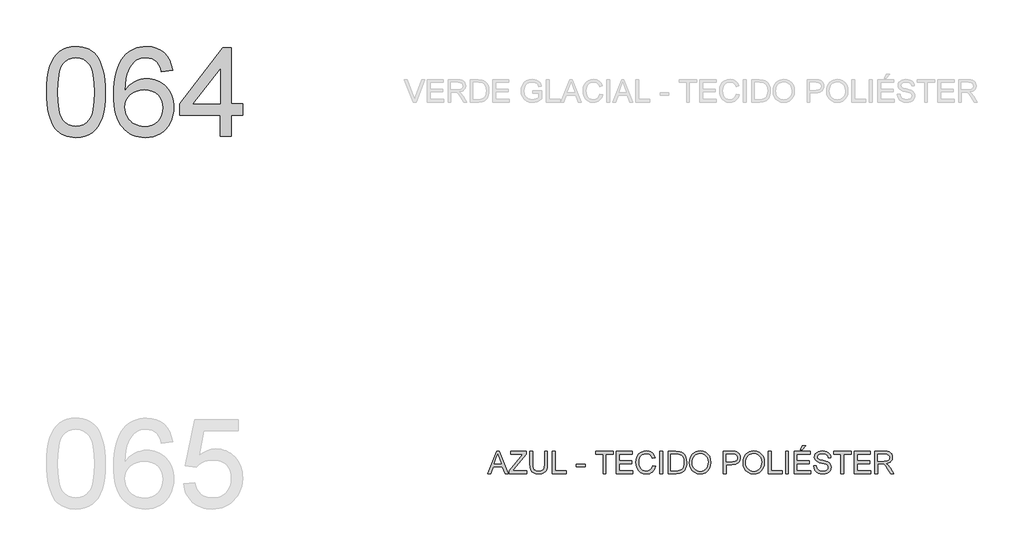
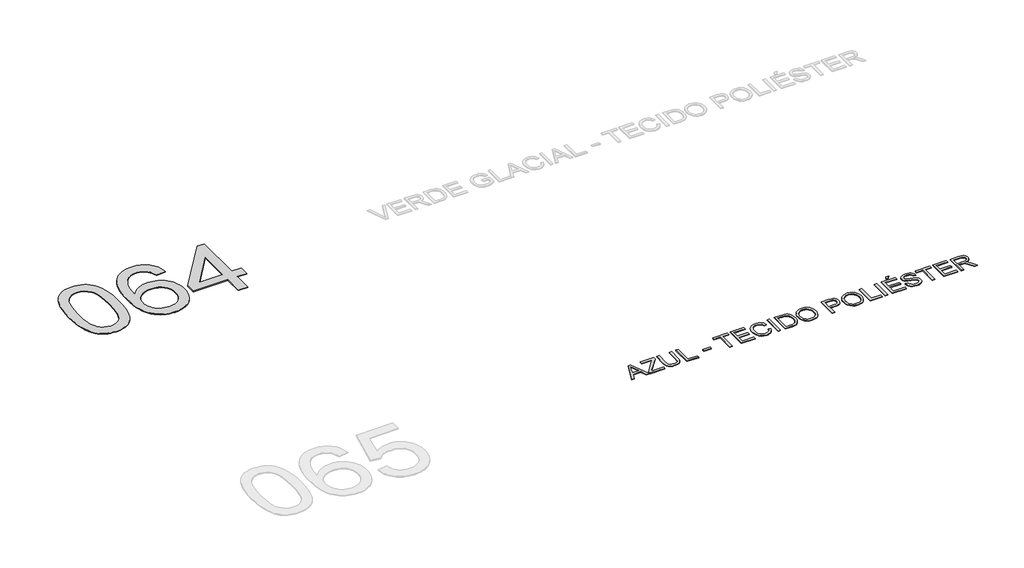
# One storey, part 12 of 39: 2 proxies.
"""IFC4 building model written with IfcOpenShell, lengths in millimetres."""

from ifc_helpers import new_model, si_unit, origin, origin_with_axes, place, context, project, spatial, polyline, outline, extrude, element, save

model = new_model("IFC4")

# Units and contexts
model_context = context("Model", 3, world=origin())
ifc_project = project(units=[si_unit("LENGTHUNIT", "METRE", prefix="MILLI")], contexts=[model_context])

# Site, building, storey
site = spatial("IfcSite", under=ifc_project)
building = spatial("IfcBuilding", under=site)
storey = spatial("IfcBuildingStorey", under=building, Name="Marelli - Linha PROFIT - Planta Baixa", Elevation=0.0)

# Proxies
placement = place(None, origin())
element("IfcBuildingElementProxy", 1, Name="1200mm Arial", ObjectType="1200mm Arial", at=placement, inside=storey, context=model_context, shape_type="SweptSolid", body=[
    extrude(outline(polyline([(-25275.30917, -94395.792664), (-25272.540858, -94294.4319773), (-25264.2359219, -94202.8385576), (-25250.3943618, -94121.0124048), (-25231.0161777, -94048.953519), (-25206.1841431, -93986.073289), (-25175.9810313, -93931.7831035), (-25140.4068423, -93886.0829627), (-25099.4615763, -93848.9728664), (-25053.0072773, -93820.2596767), (-25000.9059898, -93799.7502555), (-24943.1577136, -93787.4446027), (-24879.7624488, -93783.3427185), (-24832.1217304, -93785.7707396), (-24786.9090332, -93793.0548031), (-24744.1243571, -93805.194909), (-24703.7677023, -93822.1910572), (-24666.8139558, -93843.7581391), (-24634.2380052, -93869.6110463), (-24606.0398502, -93899.7497788), (-24582.2194911, -93934.1743365), (-24561.5813111, -93972.7467637), (-24542.929694, -94015.3291046), (-24511.586148, -94112.5235278), (-24499.611589, -94169.6831928), (-24491.0583327, -94235.9479371), (-24485.9263788, -94311.3177609), (-24484.2157275, -94395.792664), (-24486.9564484, -94496.5095573), (-24495.178611, -94587.6431245), (-24508.8822153, -94669.1933658), (-24528.0672614, -94741.1602811), (-24552.706158, -94804.0681023), (-24582.771314, -94858.4410612), (-24618.2627295, -94904.2791578), (-24659.1804044, -94941.5823921), (-24705.6898857, -94970.4887199), (-24757.9567202, -94991.1360968), (-24815.9809078, -95003.524523), (-24879.7624488, -95007.6539984), (-24922.4367602, -95005.8605737), (-24962.7566269, -95000.4802995), (-25000.7220488, -94991.5131759), (-25036.3330259, -94978.9592028), (-25069.5895583, -94962.8183803), (-25100.4916459, -94943.0907083), (-25129.0392887, -94919.7761868), (-25155.2324867, -94892.8748159), (-25183.3754594, -94850.2786794), (-25207.7660357, -94802.0999336), (-25228.4042156, -94748.3385785), (-25245.2899992, -94688.9946142), (-25258.4233864, -94624.0680406), (-25267.8043773, -94553.5588577), (-25273.4329718, -94477.4670655), (-25275.30917, -94395.792664)]), holes=[polyline([(-25124.6247047, -94395.4983584), (-25120.2101208, -94526.4919399), (-25106.966369, -94632.5247279), (-25097.0335551, -94676.1808245), (-25084.8934493, -94713.5967226), (-25070.5460515, -94744.7724225), (-25053.9913617, -94769.7079239), (-25016.614551, -94807.884878), (-24975.1174619, -94835.1541309), (-24929.5000945, -94851.5156826), (-24879.7624488, -94856.9695332), (-24830.024803, -94851.4972885), (-24784.4074356, -94835.0805545), (-24742.9103465, -94807.7193311), (-24705.5335358, -94769.4136183), (-24688.9788461, -94744.418336), (-24674.6314482, -94713.2104465), (-24662.4913424, -94675.7899498), (-24652.5585285, -94632.1568459), (-24639.3147767, -94526.2528166), (-24634.9001928, -94395.4983584), (-24639.1676239, -94267.9720648), (-24651.9699173, -94163.8062779), (-24661.5716374, -94120.4835744), (-24673.3070731, -94083.0009976), (-24687.1762243, -94051.3585475), (-24703.1790911, -94025.5562241), (-24739.9305024, -93985.5122689), (-24781.905838, -93956.9094438), (-24829.105098, -93939.7477487), (-24881.5282823, -93934.0271837), (-24931.0084107, -93939.067167), (-24975.8532259, -93954.187117), (-25016.062728, -93979.3870337), (-25051.6369169, -94014.666917), (-25068.7434297, -94043.2145599), (-25083.5690741, -94077.2068562), (-25096.1138501, -94116.6438061), (-25106.3777578, -94161.5254095), (-25120.062968, -94267.6225769), (-25124.6247047, -94395.4983584)])]), origin_with_axes(), (0.0, 0.0, 1.0), 10.0),
    extrude(outline(polyline([(-23580.1089362, -94103.5472071), (-23730.7934014, -94122.3827652), (-23741.8666495, -94082.0812927), (-23755.0736131, -94047.7027202), (-23770.4142923, -94019.2470479), (-23787.8886871, -93996.7142757), (-23820.2806967, -93969.2886729), (-23856.2411618, -93949.6989567), (-23895.7700822, -93937.9451269), (-23938.8674579, -93934.0271837), (-23974.4048586, -93936.3080521), (-24008.9121898, -93943.1506572), (-24042.3894513, -93954.554999), (-24074.8366433, -93970.5210776), (-24104.4419469, -93996.6315022), (-24131.4536824, -94028.1681863), (-24155.8718498, -94065.1311297), (-24177.6964492, -94107.5203326), (-24195.7686522, -94158.1316981), (-24208.9296306, -94219.7611293), (-24217.1793843, -94292.4086263), (-24220.5179134, -94376.0741891), (-24191.7955266, -94338.2099347), (-24160.0749016, -94305.5512106), (-24125.3560383, -94278.0980167), (-24087.6389367, -94255.8503531), (-24047.9352724, -94238.6610669), (-24007.2567208, -94226.3830053), (-23965.6032819, -94219.0161683), (-23922.9749557, -94216.560556), (-23886.0763916, -94218.2390176), (-23850.575779, -94223.2744024), (-23816.4731181, -94231.6667104), (-23783.7684087, -94243.4159416), (-23752.4616509, -94258.5220961), (-23722.5528447, -94276.9851737), (-23694.0419901, -94298.8051745), (-23666.9290871, -94323.9820986), (-23642.1660303, -94351.81697), (-23620.7047144, -94381.6108131), (-23602.5451394, -94413.3636278), (-23587.6873053, -94447.0754142), (-23576.1312121, -94482.7461721), (-23567.8768599, -94520.3759017), (-23562.9242485, -94559.9646029), (-23561.273378, -94601.5122757), (-23564.3819809, -94656.4462547), (-23573.7077895, -94709.4120649), (-23589.2508038, -94760.4097065), (-23611.0110238, -94809.4391794), (-23638.2158973, -94854.6702707), (-23670.0928722, -94894.2727675), (-23706.6419484, -94928.2466698), (-23747.863126, -94956.5919775), (-23792.8734881, -94978.9316116), (-23840.790118, -94994.8884932), (-23891.6130156, -95004.4626221), (-23945.342181, -95007.6539984), (-23991.3435252, -95005.5386769), (-24035.1697672, -94999.1927125), (-24076.8209068, -94988.6161052), (-24116.2969442, -94973.8088549), (-24153.5978792, -94954.7709616), (-24188.723712, -94931.5024254), (-24221.6744424, -94904.0032463), (-24252.4500706, -94872.2734242), (-24280.2826428, -94835.6875598), (-24304.4042053, -94793.6202536), (-24324.8147583, -94746.0715057), (-24341.5143016, -94693.0413161), (-24354.5028353, -94634.5296848), (-24363.7803594, -94570.5366117), (-24369.3468738, -94501.062097), (-24371.2023786, -94426.1061404), (-24369.1422394, -94342.1784618), (-24362.9618219, -94264.1828803), (-24352.6611261, -94192.1193959), (-24338.2401519, -94125.9880088), (-24319.6988993, -94065.7887188), (-24297.0373684, -94011.521526), (-24270.2555591, -93963.1864303), (-24239.3534716, -93920.7834319), (-24209.3388993, -93888.5707647), (-24176.8319265, -93860.6531198), (-24141.8325532, -93837.0304971), (-24104.3407793, -93817.7028968), (-24064.356605, -93802.6703188), (-24021.8800301, -93791.9327631), (-23976.9110547, -93785.4902296), (-23929.4496788, -93783.3427185), (-23860.0487404, -93788.6586133), (-23797.2328897, -93804.6062978), (-23741.0021268, -93831.1857719), (-23691.3564515, -93868.3970358), (-23649.6386333, -93914.9892904), (-23617.1914413, -93969.7117372), (-23594.0148756, -94032.5643761), (-23580.1089362, -94103.5472071)]), holes=[polyline([(-24220.5179134, -94599.157831), (-24218.3382126, -94632.9202011), (-24211.7991101, -94665.9284131), (-24200.900606, -94698.182467), (-24185.6427003, -94729.6823629), (-24166.7703539, -94758.9473756), (-24145.028528, -94784.4967801), (-24120.4172225, -94806.3305766), (-24092.9364375, -94824.4487648), (-24062.7609168, -94838.676601), (-24030.0654045, -94848.8393411), (-23994.8499005, -94854.9369852), (-23957.1144049, -94856.9695332), (-23904.7372058, -94852.7572843), (-23857.6759016, -94840.1205378), (-23815.9304922, -94819.0592936), (-23779.5009776, -94789.5735517), (-23749.9508563, -94752.8589286), (-23728.8436268, -94710.1110407), (-23716.1792892, -94661.3298882), (-23711.9578433, -94606.5154709), (-23716.1241069, -94553.8439662), (-23728.6228976, -94507.0769676), (-23749.4542156, -94466.214475), (-23778.6180608, -94431.2564884), (-23815.15794, -94403.2514715), (-23858.1173599, -94383.247888), (-23907.4963208, -94371.2457379), (-23963.2948224, -94367.2450212), (-24014.9730456, -94371.2457379), (-24062.5861729, -94383.247888), (-24106.134204, -94403.2514715), (-24145.6171392, -94431.2564884), (-24178.3862279, -94465.7546225), (-24201.7927198, -94505.2375576), (-24215.836615, -94549.7052938), (-24220.5179134, -94599.157831)])]), origin_with_axes(), (0.0, 0.0, 1.0), 10.0),
    extrude(outline(polyline([(-22939.699959, -94988.8184403), (-22939.699959, -94706.285068), (-23485.9311454, -94706.285068), (-23485.9311454, -94555.6006027), (-22902.0288427, -93802.1782766), (-22789.0154938, -93802.1782766), (-22789.0154938, -94555.6006027), (-22638.3310285, -94555.6006027), (-22638.3310285, -94706.285068), (-22789.0154938, -94706.285068), (-22789.0154938, -94988.8184403), (-22939.699959, -94988.8184403)]), holes=[polyline([(-22939.699959, -94555.6006027), (-22939.699959, -94090.0091496), (-23300.5186199, -94555.6006027), (-22939.699959, -94555.6006027)])]), origin_with_axes(), (0.0, 0.0, 1.0), 10.0),
])
element("IfcBuildingElementProxy", 2, Name="300mm Arial", ObjectType="300mm Arial", at=placement, inside=storey, context=model_context, shape_type="SweptSolid", body=[
    extrude(outline(polyline([(-19338.4397675, -99530.5663201), (-19218.1423551, -99229.1973896), (-19186.0630451, -99229.1973896), (-19065.7656327, -99530.5663201), (-19105.5704645, -99530.5663201), (-19140.0777957, -99436.3885293), (-19264.2011808, -99436.3885293), (-19298.6349356, -99530.5663201), (-19338.4397675, -99530.5663201)]), holes=[polyline([(-19250.3688178, -99398.717413), (-19153.8365823, -99398.717413), (-19180.9862735, -99324.6259792), (-19202.1027001, -99266.8685059), (-19220.8646818, -99318.1512561), (-19250.3688178, -99398.717413)])]), origin_with_axes(), (0.0, 0.0, 1.0), 10.0),
    extrude(outline(polyline([(-19049.0637901, -99530.5663201), (-19049.0637901, -99491.4972522), (-18894.9212341, -99302.7737887), (-18865.6378273, -99266.8685059), (-19030.2282319, -99266.8685059), (-19030.2282319, -99229.1973896), (-18818.3282027, -99229.1973896), (-18818.3282027, -99266.8685059), (-18987.0388857, -99473.397458), (-19002.9313879, -99492.8952038), (-18813.6193132, -99492.8952038), (-18813.6193132, -99530.5663201), (-19049.0637901, -99530.5663201)])), origin_with_axes(), (0.0, 0.0, 1.0), 10.0),
    extrude(outline(polyline([(-18573.4659467, -99229.1973896), (-18535.7948304, -99229.1973896), (-18535.7948304, -99403.0584205), (-18538.3516103, -99443.7737604), (-18546.0219499, -99475.1265034), (-18560.3509536, -99499.3147446), (-18582.8837258, -99518.5365788), (-18613.6754488, -99531.0905519), (-18652.7813049, -99535.2752096), (-18691.0318353, -99531.6331779), (-18721.6120262, -99520.7070826), (-18744.5310745, -99502.8740029), (-18759.7981773, -99478.5110178), (-18768.3790248, -99445.8338995), (-18771.2393073, -99403.0584205), (-18771.2393073, -99229.1973896), (-18733.568191, -99229.1973896), (-18733.568191, -99401.7340454), (-18731.7103869, -99435.588386), (-18726.1369747, -99459.1604248), (-18716.0386139, -99475.4851883), (-18700.6059642, -99487.597703), (-18680.4828191, -99495.1024957), (-18656.312972, -99497.6040933), (-18617.9980622, -99492.6560805), (-18603.6552629, -99486.4710644), (-18592.5222341, -99477.812042), (-18584.1851083, -99465.6351479), (-18578.2300185, -99448.8965171), (-18573.4659467, -99401.7340454), (-18573.4659467, -99229.1973896)])), origin_with_axes(), (0.0, 0.0, 1.0), 10.0),
    extrude(outline(polyline([(-18469.8703769, -99530.5663201), (-18469.8703769, -99229.1973896), (-18432.1992606, -99229.1973896), (-18432.1992606, -99492.8952038), (-18281.5147953, -99492.8952038), (-18281.5147953, -99530.5663201), (-18469.8703769, -99530.5663201)])), origin_with_axes(), (0.0, 0.0, 1.0), 10.0),
    extrude(outline(polyline([(-18144.9569987, -99441.0974188), (-18144.9569987, -99403.4263025), (-18027.2347603, -99403.4263025), (-18027.2347603, -99441.0974188), (-18144.9569987, -99441.0974188)])), origin_with_axes(), (0.0, 0.0, 1.0), 10.0),
    extrude(outline(polyline([(-17787.0813938, -99530.5663201), (-17787.0813938, -99266.8685059), (-17885.9680741, -99266.8685059), (-17885.9680741, -99229.1973896), (-17650.5235972, -99229.1973896), (-17650.5235972, -99266.8685059), (-17749.4102775, -99266.8685059), (-17749.4102775, -99530.5663201), (-17787.0813938, -99530.5663201)])), origin_with_axes(), (0.0, 0.0, 1.0), 10.0),
    extrude(outline(polyline([(-17608.1435914, -99530.5663201), (-17608.1435914, -99229.1973896), (-17391.5346726, -99229.1973896), (-17391.5346726, -99266.8685059), (-17570.4724751, -99266.8685059), (-17570.4724751, -99356.3374072), (-17400.9524517, -99356.3374072), (-17400.9524517, -99394.0085235), (-17570.4724751, -99394.0085235), (-17570.4724751, -99492.8952038), (-17386.8257831, -99492.8952038), (-17386.8257831, -99530.5663201), (-17608.1435914, -99530.5663201)])), origin_with_axes(), (0.0, 0.0, 1.0), 10.0),
    extrude(outline(polyline([(-17118.4190794, -99423.4390831), (-17080.7479631, -99433.1511677), (-17088.202172, -99456.5783531), (-17098.1303873, -99477.0486868), (-17110.5326091, -99494.5621691), (-17125.4088373, -99509.1187997), (-17142.4233796, -99520.5622291), (-17161.2405436, -99528.7361071), (-17181.8603294, -99533.640434), (-17204.2827371, -99535.2752096), (-17247.977921, -99530.3271968), (-17282.6783902, -99515.4831583), (-17309.2762585, -99491.2581289), (-17328.6636396, -99458.1671434), (-17340.5002428, -99419.2636224), (-17344.4457772, -99377.6009865), (-17339.985208, -99333.6574821), (-17326.6035005, -99295.7104543), (-17304.9996303, -99264.9647166), (-17275.8725733, -99242.6250824), (-17241.328454, -99229.0226457), (-17203.4733967, -99224.4885001), (-17162.1694457, -99230.3562179), (-17144.2007095, -99237.6908652), (-17128.0207995, -99247.9593714), (-17113.8964301, -99260.8904235), (-17102.0943158, -99276.2127086), (-17085.4568526, -99314.0309777), (-17123.1279689, -99323.0072984), (-17136.1877797, -99295.5357104), (-17154.0300565, -99276.6909552), (-17176.8755284, -99265.7924511), (-17204.9449246, -99262.1596164), (-17237.3001461, -99266.1879242), (-17263.8796203, -99278.2728478), (-17284.0487507, -99297.1451941), (-17297.1729408, -99321.5357704), (-17304.3742309, -99349.1085259), (-17306.7746609, -99377.5274101), (-17303.9327725, -99412.3290468), (-17295.4071073, -99442.421794), (-17280.8757685, -99466.6560205), (-17260.0168593, -99483.8820949), (-17235.0100807, -99494.1735937), (-17208.0351334, -99497.6040933), (-17176.5904199, -99492.931992), (-17150.3880248, -99478.9156879), (-17130.6051705, -99455.702334), (-17118.4190794, -99423.4390831)])), origin_with_axes(), (0.0, 0.0, 1.0), 10.0),
    extrude(outline(polyline([(-17024.2412886, -99530.5663201), (-17024.2412886, -99229.1973896), (-16986.5701723, -99229.1973896), (-16986.5701723, -99530.5663201), (-17024.2412886, -99530.5663201)])), origin_with_axes(), (0.0, 0.0, 1.0), 10.0),
    extrude(outline(polyline([(-16911.2279397, -99530.5663201), (-16911.2279397, -99229.1973896), (-16807.2644879, -99229.1973896), (-16753.4801402, -99233.5383972), (-16729.4574459, -99241.9077126), (-16709.1871479, -99255.0962821), (-16688.3466329, -99278.0521186), (-16673.5025944, -99306.5997614), (-16664.6182442, -99340.1873876), (-16661.6567942, -99378.2631741), (-16663.661751, -99410.6091985), (-16669.6766217, -99439.0740679), (-16678.8368833, -99463.3082943), (-16690.2780134, -99482.9623899), (-16703.4481888, -99498.477813), (-16717.7955866, -99510.2960221), (-16734.267503, -99519.0608107), (-16753.811234, -99525.4159721), (-16802.2612927, -99530.5663201), (-16911.2279397, -99530.5663201)]), holes=[polyline([(-16873.5568234, -99492.8952038), (-16806.8966059, -99492.8952038), (-16779.3238503, -99491.5340404), (-16758.4097589, -99487.4505502), (-16742.6276213, -99480.8838566), (-16730.4507273, -99472.0730828), (-16717.3633253, -99455.7667134), (-16707.531679, -99434.6594839), (-16701.3788526, -99408.6594239), (-16699.3279105, -99377.6745629), (-16703.3470213, -99336.6189322), (-16715.4043537, -99306.3054558), (-16733.2190393, -99285.4833349), (-16754.5102098, -99272.9017706), (-16776.1784593, -99268.3768221), (-16807.9266755, -99266.8685059), (-16873.5568234, -99266.8685059), (-16873.5568234, -99492.8952038)])]), origin_with_axes(), (0.0, 0.0, 1.0), 10.0),
    extrude(outline(polyline([(-16623.9856779, -99383.8549804), (-16621.4748832, -99348.5061192), (-16613.9424994, -99317.213157), (-16601.3885263, -99289.9760937), (-16583.812964, -99266.7949295), (-16562.2688746, -99248.2858666), (-16537.8093205, -99235.0651074), (-16510.4343015, -99227.1326519), (-16480.1438177, -99224.4885001), (-16440.6148974, -99229.454907), (-16405.1694671, -99244.3541278), (-16375.7389075, -99268.1376988), (-16354.254599, -99299.7571563), (-16341.1212118, -99337.68579), (-16336.743416, -99380.3968896), (-16341.351138, -99423.6782064), (-16355.174304, -99462.140269), (-16377.4495588, -99493.8149087), (-16407.4135473, -99516.733957), (-16442.5554749, -99530.6398965), (-16480.3645469, -99535.2752096), (-16520.5004726, -99530.1524528), (-16556.148238, -99514.7841825), (-16585.5052212, -99490.5591531), (-16606.7688005, -99458.8661192), (-16619.6814585, -99422.3998164), (-16623.9856779, -99383.8549804)]), holes=[polyline([(-16586.3145616, -99384.2228624), (-16584.4314656, -99409.1974513), (-16578.7821777, -99431.3669401), (-16569.3666979, -99450.7313286), (-16556.1850262, -99467.2906169), (-16540.161466, -99480.5527628), (-16522.2203209, -99490.0257242), (-16502.361591, -99495.709501), (-16480.5852761, -99497.6040933), (-16458.4364808, -99495.6911069), (-16438.343226, -99489.9521478), (-16420.305512, -99480.3872159), (-16404.3233385, -99466.9963113), (-16391.2382358, -99450.0875351), (-16381.8917339, -99429.9689885), (-16376.2838327, -99406.6406715), (-16374.4145323, -99380.102584), (-16377.6151057, -99346.7540812), (-16387.2168258, -99317.9305269), (-16402.9713722, -99294.358488), (-16424.6304247, -99276.7645316), (-16450.7592434, -99265.8108452), (-16479.9230886, -99262.1596164), (-16500.9429461, -99263.9185522), (-16520.4452903, -99269.1953595), (-16538.4301214, -99277.9900385), (-16554.8974392, -99290.302589), (-16568.6424302, -99306.7262208), (-16578.460281, -99327.8541437), (-16584.3509914, -99353.6863575), (-16586.3145616, -99384.2228624)])]), origin_with_axes(), (0.0, 0.0, 1.0), 10.0),
    extrude(outline(polyline([(-16167.2233927, -99530.5663201), (-16167.2233927, -99229.1973896), (-16055.5344189, -99229.1973896), (-16010.5056627, -99232.0668692), (-15990.4285028, -99237.4287493), (-15973.9014042, -99246.1567496), (-15960.593273, -99258.6463433), (-15950.1730155, -99275.2930036), (-15943.440775, -99294.9287051), (-15941.1966948, -99316.3854225), (-15942.7119088, -99334.8852883), (-15947.2575507, -99351.9044291), (-15954.8336205, -99367.4428449), (-15965.4401183, -99381.5005356), (-15980.0013475, -99393.1531978), (-15999.4416117, -99401.476528), (-16023.7609108, -99406.470526), (-16052.959245, -99408.1351921), (-16129.5522763, -99408.1351921), (-16129.5522763, -99530.5663201), (-16167.2233927, -99530.5663201)]), holes=[polyline([(-16129.5522763, -99370.4640758), (-16050.751953, -99370.4640758), (-16017.3482678, -99367.005985), (-15995.2753481, -99356.6317127), (-15982.9696954, -99339.9850525), (-15978.8678111, -99317.7097977), (-15981.2866352, -99300.7872259), (-15988.5431076, -99286.5134045), (-15999.7359173, -99275.7712502), (-16013.9637535, -99269.4436799), (-16051.6348698, -99266.8685059), (-16129.5522763, -99266.8685059), (-16129.5522763, -99370.4640758)])]), origin_with_axes(), (0.0, 0.0, 1.0), 10.0),
    extrude(outline(polyline([(-15903.5255785, -99383.8549804), (-15901.0147839, -99348.5061192), (-15893.4824, -99317.213157), (-15880.928427, -99289.9760937), (-15863.3528646, -99266.7949295), (-15841.8087753, -99248.2858666), (-15817.3492211, -99235.0651074), (-15789.9742022, -99227.1326519), (-15759.6837184, -99224.4885001), (-15720.154798, -99229.454907), (-15684.7093678, -99244.3541278), (-15655.2788082, -99268.1376988), (-15633.7944996, -99299.7571563), (-15620.6611124, -99337.68579), (-15616.2833167, -99380.3968896), (-15620.8910387, -99423.6782064), (-15634.7142046, -99462.140269), (-15656.9894594, -99493.8149087), (-15686.9534479, -99516.733957), (-15722.0953755, -99530.6398965), (-15759.9044476, -99535.2752096), (-15800.0403733, -99530.1524528), (-15835.6881386, -99514.7841825), (-15865.0451218, -99490.5591531), (-15886.3087011, -99458.8661192), (-15899.2213592, -99422.3998164), (-15903.5255785, -99383.8549804)]), holes=[polyline([(-15865.8544622, -99384.2228624), (-15863.9713662, -99409.1974513), (-15858.3220784, -99431.3669401), (-15848.9065985, -99450.7313286), (-15835.7249268, -99467.2906169), (-15819.7013666, -99480.5527628), (-15801.7602216, -99490.0257242), (-15781.9014916, -99495.709501), (-15760.1251768, -99497.6040933), (-15737.9763814, -99495.6911069), (-15717.8831267, -99489.9521478), (-15699.8454126, -99480.3872159), (-15683.8632392, -99466.9963113), (-15670.7781365, -99450.0875351), (-15661.4316345, -99429.9689885), (-15655.8237334, -99406.6406715), (-15653.954433, -99380.102584), (-15657.1550063, -99346.7540812), (-15666.7567264, -99317.9305269), (-15682.5112729, -99294.358488), (-15704.1703253, -99276.7645316), (-15730.299144, -99265.8108452), (-15759.4629892, -99262.1596164), (-15780.4828467, -99263.9185522), (-15799.985191, -99269.1953595), (-15817.970022, -99277.9900385), (-15834.4373398, -99290.302589), (-15848.1823309, -99306.7262208), (-15858.0001816, -99327.8541437), (-15863.8908921, -99353.6863575), (-15865.8544622, -99384.2228624)])]), origin_with_axes(), (0.0, 0.0, 1.0), 10.0),
    extrude(outline(polyline([(-15564.4855318, -99530.5663201), (-15564.4855318, -99229.1973896), (-15526.8144154, -99229.1973896), (-15526.8144154, -99492.8952038), (-15376.1299502, -99492.8952038), (-15376.1299502, -99530.5663201), (-15564.4855318, -99530.5663201)])), origin_with_axes(), (0.0, 0.0, 1.0), 10.0),
    extrude(outline(polyline([(-15329.0410548, -99530.5663201), (-15329.0410548, -99229.1973896), (-15291.3699385, -99229.1973896), (-15291.3699385, -99530.5663201), (-15329.0410548, -99530.5663201)])), origin_with_axes(), (0.0, 0.0, 1.0), 10.0),
    extrude(outline(polyline([(-15216.0277059, -99530.5663201), (-15216.0277059, -99229.1973896), (-14999.4187872, -99229.1973896), (-14999.4187872, -99266.8685059), (-15178.3565896, -99266.8685059), (-15178.3565896, -99356.3374072), (-15008.8365662, -99356.3374072), (-15008.8365662, -99394.0085235), (-15178.3565896, -99394.0085235), (-15178.3565896, -99492.8952038), (-14994.7098976, -99492.8952038), (-14994.7098976, -99530.5663201), (-15216.0277059, -99530.5663201)])), origin_with_axes(), (0.0, 0.0, 1.0), 10.0),
    extrude(outline(polyline([(-15131.2676942, -99210.3618315), (-15103.014357, -99153.855157), (-15055.9254616, -99153.855157), (-15103.014357, -99210.3618315), (-15131.2676942, -99210.3618315)])), origin_with_axes(), (0.0, 0.0, 1.0), 10.0),
    extrude(outline(polyline([(-14952.3298918, -99426.9707502), (-14914.6587755, -99426.9707502), (-14910.336162, -99447.8756446), (-14902.5186696, -99464.6786547), (-14890.3233815, -99478.0143771), (-14872.8673808, -99488.517408), (-14851.5302251, -99495.332422), (-14827.6914718, -99497.6040933), (-14806.703804, -99495.884245), (-14788.3280983, -99490.7247), (-14773.4380746, -99482.5577197), (-14762.9074525, -99471.8155654), (-14756.6442615, -99459.4823216), (-14754.5565312, -99446.5420724), (-14756.1200297, -99433.932917), (-14760.8105251, -99423.0344129), (-14770.3386688, -99413.7361954), (-14786.415112, -99405.9279001), (-14841.2663174, -99391.5437141), (-14877.2727677, -99382.0247675), (-14900.3113777, -99372.9656733), (-14919.0641624, -99360.2921386), (-14932.3538994, -99344.9330653), (-14940.2725594, -99327.2195472), (-14942.9121127, -99307.4826782), (-14939.64716, -99285.4189555), (-14929.8523019, -99264.845155), (-14913.7850557, -99247.4075484), (-14891.702939, -99234.7524077), (-14865.1970412, -99227.054477), (-14835.8584521, -99224.4885001), (-14804.0734477, -99227.1740386), (-14776.2615689, -99235.2306543), (-14753.416097, -99248.4928003), (-14736.5303134, -99266.7949295), (-14725.8433415, -99288.9966079), (-14721.5943044, -99313.9574013), (-14759.2654207, -99313.9574013), (-14766.1816022, -99291.4798114), (-14780.6025764, -99275.2562154), (-14803.1353486, -99265.4337661), (-14834.3869241, -99262.1596164), (-14866.3742636, -99265.3969779), (-14888.3184246, -99275.1090626), (-14901.0103535, -99289.4012781), (-14905.2409964, -99306.3790322), (-14902.2427581, -99320.8551887), (-14893.2480434, -99332.4986539), (-14871.984464, -99342.9097143), (-14831.7381738, -99353.541504), (-14790.2042965, -99363.6398648), (-14765.0779562, -99372.4506385), (-14743.6028448, -99386.1174547), (-14728.6208505, -99402.9848441), (-14719.8192738, -99422.868866), (-14716.8854149, -99445.5855792), (-14720.2607322, -99468.8081301), (-14730.3866841, -99490.6511236), (-14746.8494034, -99509.4498935), (-14769.2350228, -99523.539774), (-14796.1547878, -99532.3413507), (-14826.2199438, -99535.2752096), (-14863.127705, -99532.1114244), (-14893.5055608, -99522.620069), (-14917.702999, -99506.764355), (-14936.0695076, -99484.5074943), (-14947.8601255, -99457.3945912), (-14952.3298918, -99426.9707502)])), origin_with_axes(), (0.0, 0.0, 1.0), 10.0),
    extrude(outline(polyline([(-14585.0365078, -99530.5663201), (-14585.0365078, -99266.8685059), (-14683.9231881, -99266.8685059), (-14683.9231881, -99229.1973896), (-14448.4787112, -99229.1973896), (-14448.4787112, -99266.8685059), (-14547.3653915, -99266.8685059), (-14547.3653915, -99530.5663201), (-14585.0365078, -99530.5663201)])), origin_with_axes(), (0.0, 0.0, 1.0), 10.0),
    extrude(outline(polyline([(-14406.0987053, -99530.5663201), (-14406.0987053, -99229.1973896), (-14189.4897866, -99229.1973896), (-14189.4897866, -99266.8685059), (-14368.427589, -99266.8685059), (-14368.427589, -99356.3374072), (-14198.9075657, -99356.3374072), (-14198.9075657, -99394.0085235), (-14368.427589, -99394.0085235), (-14368.427589, -99492.8952038), (-14184.780897, -99492.8952038), (-14184.780897, -99530.5663201), (-14406.0987053, -99530.5663201)])), origin_with_axes(), (0.0, 0.0, 1.0), 10.0),
    extrude(outline(polyline([(-14128.2742226, -99530.5663201), (-14128.2742226, -99229.1973896), (-13998.4118783, -99229.1973896), (-13963.509074, -99231.2299376), (-13938.1160193, -99237.3275817), (-13919.5563726, -99248.5847708), (-13905.1537925, -99266.0959537), (-13895.9107574, -99287.8101885), (-13892.8297457, -99311.6765329), (-13897.9341084, -99341.3646099), (-13913.2471964, -99365.9759154), (-13924.8469756, -99376.0052983), (-13939.2288623, -99384.0205273), (-13976.3389586, -99394.0085235), (-13954.9282265, -99410.1217548), (-13924.3940209, -99448.8965171), (-13874.1413403, -99530.5663201), (-13917.9192977, -99530.5663201), (-13957.1355184, -99468.0999573), (-13985.4624321, -99426.750021), (-14005.364848, -99407.2154871), (-14023.2807012, -99400.0417882), (-14045.1328917, -99398.717413), (-14090.6031063, -99398.717413), (-14090.6031063, -99530.5663201), (-14128.2742226, -99530.5663201)]), holes=[polyline([(-14090.6031063, -99361.0462967), (-14006.284553, -99361.0462967), (-13982.0687207, -99359.7127245), (-13963.2791477, -99355.7120078), (-13949.134085, -99348.7774322), (-13938.8517833, -99338.6422832), (-13932.5885923, -99326.3826157), (-13930.500862, -99313.0744845), (-13934.4831846, -99294.6987789), (-13946.4301524, -99279.8915286), (-13966.9855588, -99270.1242616), (-13996.7931975, -99266.8685059), (-14090.6031063, -99266.8685059), (-14090.6031063, -99361.0462967)])]), origin_with_axes(), (0.0, 0.0, 1.0), 10.0),
])

save(model, "model.ifc")
